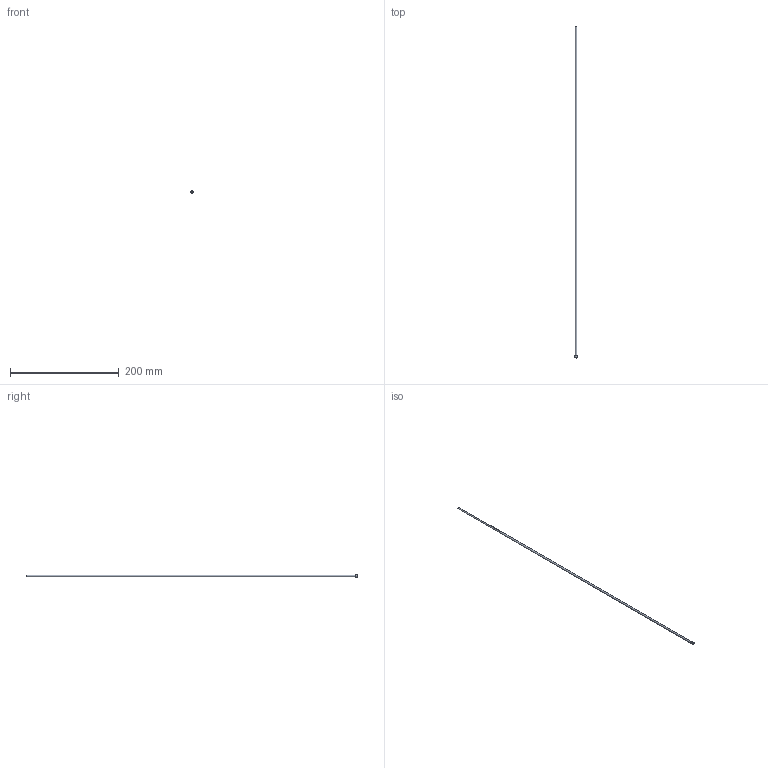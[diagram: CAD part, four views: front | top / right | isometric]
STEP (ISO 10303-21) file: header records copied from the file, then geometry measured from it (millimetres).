
FILE_DESCRIPTION(/* description */ (''),/* implementation_level */ '2;1');
FILE_NAME(/* name */ 'C:/Users/drich/Desktop/HF125T-24 v1.step',/* time_stamp */ '2019-12-30T13:31:57-06:00',/* author */ (''),/* organization */ (''),/* preprocessor_version */ 'ST-DEVELOPER v18',/* originating_system */ 'Autodesk Translation Framework v8.12.0.6',/* authorisation */ '');
FILE_SCHEMA (('AUTOMOTIVE_DESIGN { 1 0 10303 214 3 1 1 }'));
Length unit declared in the file: inch
Products named in the file (1): HF125T-24
Bounding box: 4.8 x 609.6 x 4.8 mm (x, y, z)
Volume: 1206.5 mm3; surface area: 11428.2 mm2
Topology: 1 solids, 1 shells, 11 faces, 27 edges, 20 vertices
Faces by surface type: cylinder 4, plane 4, torus 2, cone 1
Full cylindrical faces by diameter (mm): 2.769 x1, 3.175 x1, 4.727 x1, 4.801 x1
Entity records: 390 total; most frequent: DIRECTION 73, CARTESIAN_POINT 59, ORIENTED_EDGE 54, AXIS2_PLACEMENT_3D 34, EDGE_CURVE 27, CIRCLE 22, VERTEX_POINT 20, EDGE_LOOP 15
